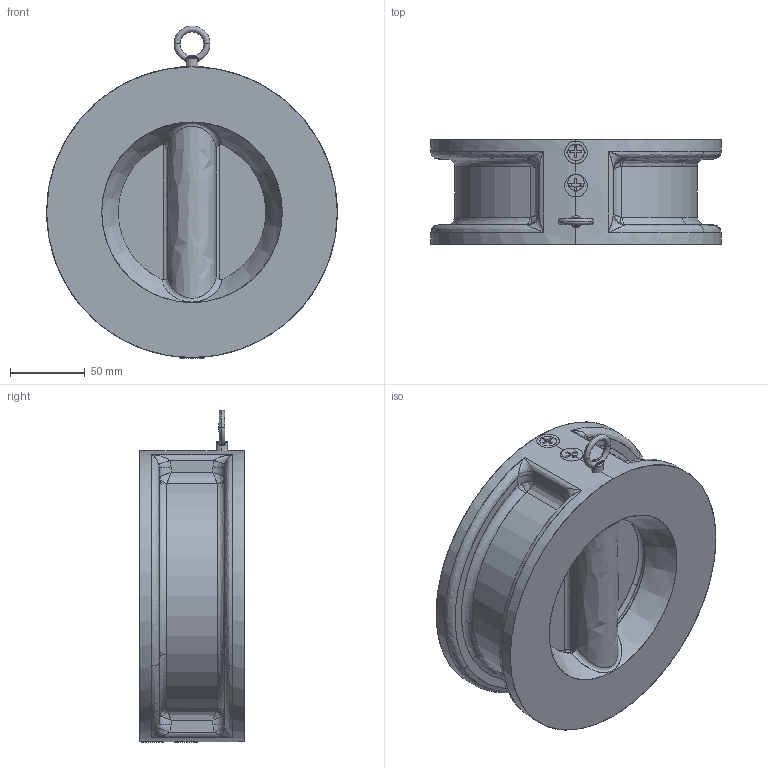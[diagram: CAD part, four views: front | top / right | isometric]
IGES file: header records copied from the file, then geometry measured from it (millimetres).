
Start section: SolidWorks IGES file using analytic representation for surfaces
Global section: file name: C:\Users\Administrator\Desktop\temp\00.IGS; native system: SolidWorks 2015; preprocessor: SolidWorks 2015; author: Administrator; date: 170402.173600; units: millimetre
Bounding box: 194 x 70 x 221.5 mm (x, y, z)
Surface area: 214165.1 mm2 (no closed solid volume)
Topology: 0 solids, 0 shells, 501 faces, 5601 edges, 5573 vertices
Faces by surface type: bspline 312, revolution 189
